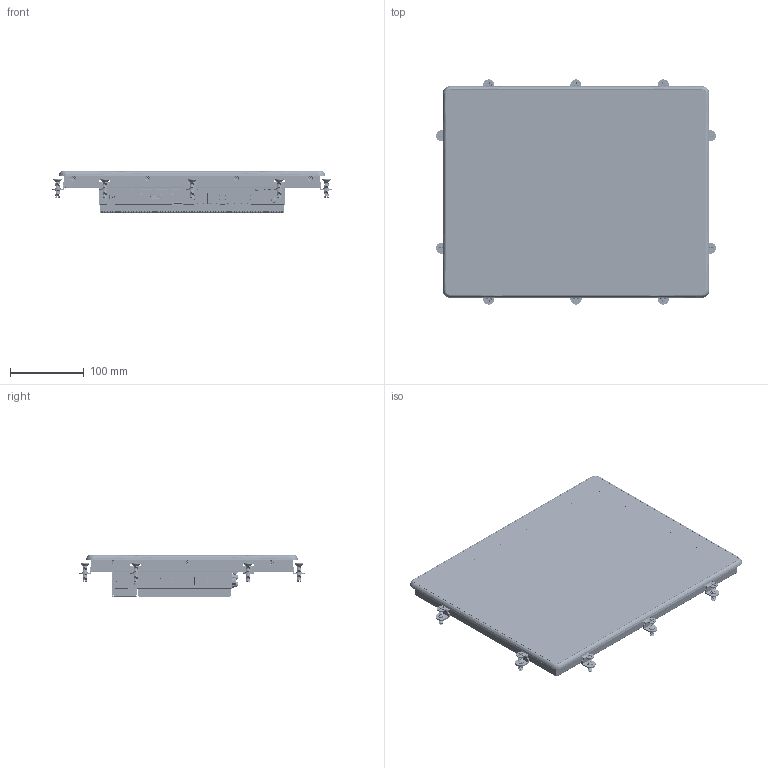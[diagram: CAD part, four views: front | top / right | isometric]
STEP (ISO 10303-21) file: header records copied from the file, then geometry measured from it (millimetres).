
FILE_DESCRIPTION((''),'2;1');
FILE_NAME('NP2A-150','2026-06-02T13:46:10',('gijyu181'),(''),'CREO PARAMETRIC BY PTC INC, 2018050','CREO PARAMETRIC BY PTC INC, 2018050','');
FILE_SCHEMA(('CONFIG_CONTROL_DESIGN','SHAPE_APPEARANCE_LAYERS_GROUPS'));
Products named in the file (1): NP2A-150
Bounding box: 378.6 x 304.6 x 56.5 mm (x, y, z)
Volume: 1000121.2 mm3; surface area: 824588.9 mm2
Topology: 39 solids, 88 shells, 26370 faces, 76865 edges, 50632 vertices
Faces by surface type: plane 17400, cylinder 6112, extrusion 1557, bspline 512, cone 456, torus 221, sphere 96, revolution 16
Entity records: 1080922 total; most frequent: CARTESIAN_POINT 266288, ORIENTED_EDGE 152783, DIRECTION 132575, EDGE_CURVE 76801, VECTOR 59939, LINE 58382, VERTEX_POINT 50633, AXIS2_PLACEMENT_3D 36310
